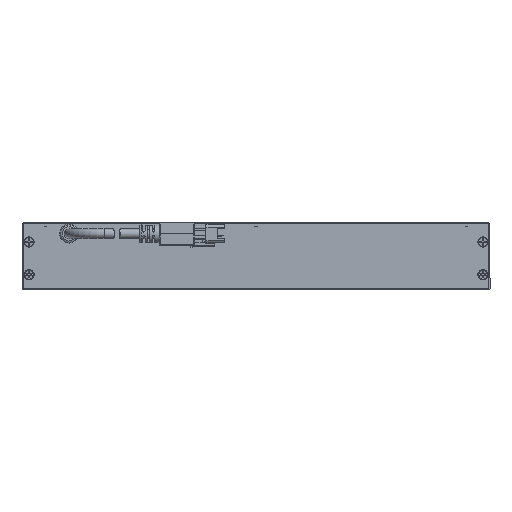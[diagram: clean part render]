
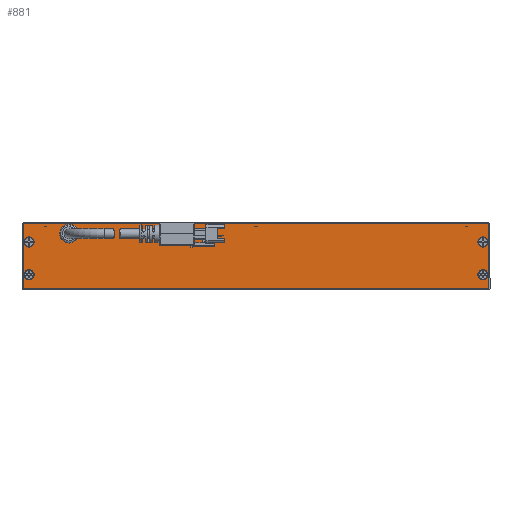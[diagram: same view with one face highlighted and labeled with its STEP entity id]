
A CAD part, front view. The second image highlights one B-rep face of the part: STEP entity #881.
In plain terms, the highlighted planar face has unit normal (0, -1, 0).
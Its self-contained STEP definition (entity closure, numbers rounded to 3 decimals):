
#206 = FACE_BOUND ( 'NONE', #39311, .T. ) ;
#377 = AXIS2_PLACEMENT_3D ( 'NONE', #37083, #27287, #22669 ) ;
#881 = ADVANCED_FACE ( 'NONE', ( #41155, #40443, #39661, #206, #34457, #56073 ), #42565, .F. ) ;
#1171 = ORIENTED_EDGE ( 'NONE', *, *, #28481, .T. ) ;
#1179 = DIRECTION ( 'NONE',  ( 0., -1., 0. ) ) ;
#1461 = CARTESIAN_POINT ( 'NONE',  ( -99.5, -100., 2. ) ) ;
#1496 = EDGE_CURVE ( 'NONE', #55732, #39370, #16344, .T. ) ;
#2408 = CARTESIAN_POINT ( 'NONE',  ( 99.5, -100., 1.5 ) ) ;
#2469 = CARTESIAN_POINT ( 'NONE',  ( -77.1, -100., -3. ) ) ;
#3403 = DIRECTION ( 'NONE',  ( -1., 0., 0. ) ) ;
#3731 = ORIENTED_EDGE ( 'NONE', *, *, #59912, .T. ) ;
#4505 = EDGE_CURVE ( 'NONE', #18709, #18709, #40209, .T. ) ;
#4531 = ORIENTED_EDGE ( 'NONE', *, *, #36256, .F. ) ;
#4907 = CARTESIAN_POINT ( 'NONE',  ( -100., -100., 0. ) ) ;
#4925 = CARTESIAN_POINT ( 'NONE',  ( 94.8, -100., -6.5 ) ) ;
#5913 = DIRECTION ( 'NONE',  ( -1., 0., 0. ) ) ;
#6325 = ORIENTED_EDGE ( 'NONE', *, *, #4505, .F. ) ;
#6356 = LINE ( 'NONE', #59364, #40657 ) ;
#8182 = DIRECTION ( 'NONE',  ( 0., -1., 0. ) ) ;
#8375 = DIRECTION ( 'NONE',  ( 0., -1., 0. ) ) ;
#10056 = LINE ( 'NONE', #37336, #24208 ) ;
#10533 = VERTEX_POINT ( 'NONE', #46512 ) ;
#11096 = ORIENTED_EDGE ( 'NONE', *, *, #1496, .F. ) ;
#11133 = EDGE_CURVE ( 'NONE', #53674, #53674, #44994, .T. ) ;
#11546 = LINE ( 'NONE', #56486, #54010 ) ;
#11607 = DIRECTION ( 'NONE',  ( 0., 0., 1. ) ) ;
#12094 = EDGE_LOOP ( 'NONE', ( #48199, #3731, #1171, #45404 ) ) ;
#13147 = VERTEX_POINT ( 'NONE', #43962 ) ;
#13463 = CARTESIAN_POINT ( 'NONE',  ( -100., -100., -26.5 ) ) ;
#16344 = LINE ( 'NONE', #2469, #40194 ) ;
#17782 = DIRECTION ( 'NONE',  ( -1., 0., 0. ) ) ;
#17916 = EDGE_LOOP ( 'NONE', ( #37584, #56326, #11096, #51409 ) ) ;
#18709 = VERTEX_POINT ( 'NONE', #30741 ) ;
#21970 = AXIS2_PLACEMENT_3D ( 'NONE', #57779, #1179, #48624 ) ;
#22269 = CIRCLE ( 'NONE', #21970, 2.2 ) ;
#22669 = DIRECTION ( 'NONE',  ( -1., 0., 0. ) ) ;
#22994 = DIRECTION ( 'NONE',  ( 1., 0., 0. ) ) ;
#24208 = VECTOR ( 'NONE', #17782, 1000. ) ;
#24302 = CARTESIAN_POINT ( 'NONE',  ( 97., -100., -20.5 ) ) ;
#24768 = LINE ( 'NONE', #1461, #59056 ) ;
#26869 = VERTEX_POINT ( 'NONE', #40945 ) ;
#27287 = DIRECTION ( 'NONE',  ( 0., -1., 0. ) ) ;
#27475 = EDGE_LOOP ( 'NONE', ( #6325 ) ) ;
#27659 = ORIENTED_EDGE ( 'NONE', *, *, #11133, .F. ) ;
#27962 = DIRECTION ( 'NONE',  ( 0., 0., 1. ) ) ;
#27999 = VECTOR ( 'NONE', #55475, 1000. ) ;
#28481 = EDGE_CURVE ( 'NONE', #13147, #42444, #43596, .T. ) ;
#29095 = AXIS2_PLACEMENT_3D ( 'NONE', #41894, #8182, #3403 ) ;
#30674 = CIRCLE ( 'NONE', #44260, 2.8 ) ;
#30741 = CARTESIAN_POINT ( 'NONE',  ( 94.8, -100., -20.5 ) ) ;
#31152 = AXIS2_PLACEMENT_3D ( 'NONE', #34231, #47342, #5913 ) ;
#32749 = EDGE_CURVE ( 'NONE', #40326, #55732, #30674, .T. ) ;
#33787 = VERTEX_POINT ( 'NONE', #2408 ) ;
#34231 = CARTESIAN_POINT ( 'NONE',  ( -100., -100., 2. ) ) ;
#34457 = FACE_BOUND ( 'NONE', #51599, .T. ) ;
#36080 = DIRECTION ( 'NONE',  ( 0., 0., 1. ) ) ;
#36256 = EDGE_CURVE ( 'NONE', #50701, #50701, #22269, .T. ) ;
#37083 = CARTESIAN_POINT ( 'NONE',  ( -97., -100., -20.5 ) ) ;
#37336 = CARTESIAN_POINT ( 'NONE',  ( -100., -100., 1.5 ) ) ;
#37511 = CARTESIAN_POINT ( 'NONE',  ( -79.9, -100., -3. ) ) ;
#37584 = ORIENTED_EDGE ( 'NONE', *, *, #41624, .T. ) ;
#39311 = EDGE_LOOP ( 'NONE', ( #48679 ) ) ;
#39370 = VERTEX_POINT ( 'NONE', #43027 ) ;
#39661 = FACE_BOUND ( 'NONE', #27475, .T. ) ;
#40194 = VECTOR ( 'NONE', #11607, 1000. ) ;
#40209 = CIRCLE ( 'NONE', #45685, 2.2 ) ;
#40326 = VERTEX_POINT ( 'NONE', #42363 ) ;
#40443 = FACE_OUTER_BOUND ( 'NONE', #12094, .T. ) ;
#40657 = VECTOR ( 'NONE', #36080, 1000. ) ;
#40945 = CARTESIAN_POINT ( 'NONE',  ( -82.7, -100., 0. ) ) ;
#41011 = CIRCLE ( 'NONE', #29095, 2.2 ) ;
#41155 = FACE_BOUND ( 'NONE', #17916, .T. ) ;
#41624 = EDGE_CURVE ( 'NONE', #40326, #26869, #6356, .T. ) ;
#41699 = VERTEX_POINT ( 'NONE', #4925 ) ;
#41894 = CARTESIAN_POINT ( 'NONE',  ( 97., -100., -6.5 ) ) ;
#42119 = CARTESIAN_POINT ( 'NONE',  ( -77.1, -100., -3. ) ) ;
#42363 = CARTESIAN_POINT ( 'NONE',  ( -82.7, -100., -3. ) ) ;
#42444 = VERTEX_POINT ( 'NONE', #53021 ) ;
#42565 = PLANE ( 'NONE',  #31152 ) ;
#43027 = CARTESIAN_POINT ( 'NONE',  ( -77.1, -100., 0. ) ) ;
#43596 = LINE ( 'NONE', #13463, #46595 ) ;
#43962 = CARTESIAN_POINT ( 'NONE',  ( -99.5, -100., -26.5 ) ) ;
#44260 = AXIS2_PLACEMENT_3D ( 'NONE', #37511, #8375, #60798 ) ;
#44994 = CIRCLE ( 'NONE', #377, 2.2 ) ;
#45404 = ORIENTED_EDGE ( 'NONE', *, *, #56148, .T. ) ;
#45685 = AXIS2_PLACEMENT_3D ( 'NONE', #24302, #47440, #57431 ) ;
#45952 = EDGE_LOOP ( 'NONE', ( #27659 ) ) ;
#46512 = CARTESIAN_POINT ( 'NONE',  ( -99.5, -100., 1.5 ) ) ;
#46595 = VECTOR ( 'NONE', #22994, 1000. ) ;
#47103 = EDGE_CURVE ( 'NONE', #41699, #41699, #41011, .T. ) ;
#47342 = DIRECTION ( 'NONE',  ( 0., 1., 0. ) ) ;
#47440 = DIRECTION ( 'NONE',  ( 0., -1., 0. ) ) ;
#48199 = ORIENTED_EDGE ( 'NONE', *, *, #55779, .T. ) ;
#48624 = DIRECTION ( 'NONE',  ( -1., 0., 0. ) ) ;
#48679 = ORIENTED_EDGE ( 'NONE', *, *, #47103, .F. ) ;
#50701 = VERTEX_POINT ( 'NONE', #56134 ) ;
#51409 = ORIENTED_EDGE ( 'NONE', *, *, #32749, .F. ) ;
#51599 = EDGE_LOOP ( 'NONE', ( #4531 ) ) ;
#53021 = CARTESIAN_POINT ( 'NONE',  ( 99.5, -100., -26.5 ) ) ;
#53674 = VERTEX_POINT ( 'NONE', #59486 ) ;
#54010 = VECTOR ( 'NONE', #27962, 1000. ) ;
#54596 = EDGE_CURVE ( 'NONE', #26869, #39370, #60791, .T. ) ;
#55475 = DIRECTION ( 'NONE',  ( 1., 0., 0. ) ) ;
#55732 = VERTEX_POINT ( 'NONE', #42119 ) ;
#55779 = EDGE_CURVE ( 'NONE', #33787, #10533, #10056, .T. ) ;
#56073 = FACE_BOUND ( 'NONE', #45952, .T. ) ;
#56134 = CARTESIAN_POINT ( 'NONE',  ( -99.2, -100., -6.5 ) ) ;
#56148 = EDGE_CURVE ( 'NONE', #42444, #33787, #11546, .T. ) ;
#56326 = ORIENTED_EDGE ( 'NONE', *, *, #54596, .T. ) ;
#56486 = CARTESIAN_POINT ( 'NONE',  ( 99.5, -100., 2. ) ) ;
#57431 = DIRECTION ( 'NONE',  ( -1., 0., 0. ) ) ;
#57779 = CARTESIAN_POINT ( 'NONE',  ( -97., -100., -6.5 ) ) ;
#59056 = VECTOR ( 'NONE', #59296, 1000. ) ;
#59296 = DIRECTION ( 'NONE',  ( 0., 0., -1. ) ) ;
#59364 = CARTESIAN_POINT ( 'NONE',  ( -82.7, -100., 0. ) ) ;
#59486 = CARTESIAN_POINT ( 'NONE',  ( -99.2, -100., -20.5 ) ) ;
#59912 = EDGE_CURVE ( 'NONE', #10533, #13147, #24768, .T. ) ;
#60791 = LINE ( 'NONE', #4907, #27999 ) ;
#60798 = DIRECTION ( 'NONE',  ( -1., 0., 0. ) ) ;
